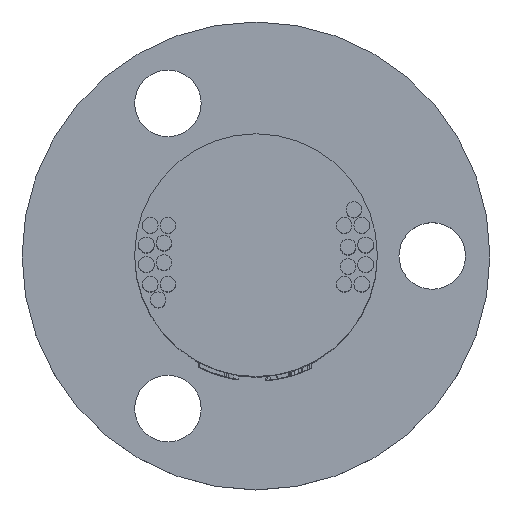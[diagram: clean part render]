
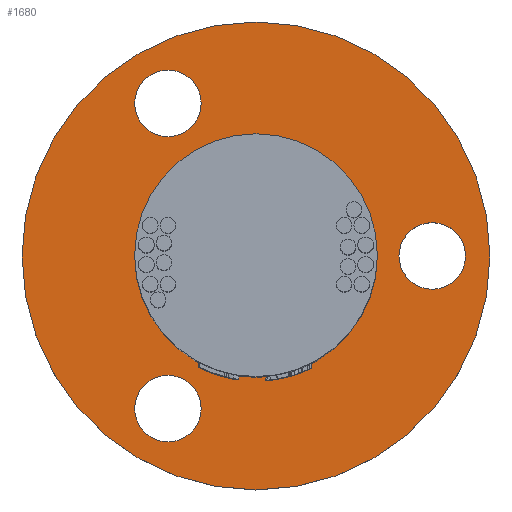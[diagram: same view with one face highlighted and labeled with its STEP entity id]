
A CAD part, top view. The second image highlights one B-rep face of the part: STEP entity #1680.
In plain terms, the highlighted planar face has unit normal (0, 0, 1).
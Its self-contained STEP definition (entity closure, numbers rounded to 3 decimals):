
#187=FACE_BOUND('',#3127,.T.);
#188=FACE_BOUND('',#3128,.T.);
#189=FACE_BOUND('',#3129,.T.);
#190=FACE_BOUND('',#3130,.T.);
#191=FACE_BOUND('',#3131,.T.);
#368=CIRCLE('',#11130,6.2);
#369=CIRCLE('',#11132,1.7);
#370=CIRCLE('',#11133,1.7);
#371=CIRCLE('',#11134,1.7);
#372=CIRCLE('',#11135,11.95);
#1680=ADVANCED_FACE('',(#187,#188,#189,#190,#191),#2043,.T.);
#2043=PLANE('',#11136);
#3127=EDGE_LOOP('',(#5577));
#3128=EDGE_LOOP('',(#5578));
#3129=EDGE_LOOP('',(#5579));
#3130=EDGE_LOOP('',(#5580));
#3131=EDGE_LOOP('',(#5581));
#5577=ORIENTED_EDGE('',*,*,#8927,.F.);
#5578=ORIENTED_EDGE('',*,*,#8928,.F.);
#5579=ORIENTED_EDGE('',*,*,#8929,.F.);
#5580=ORIENTED_EDGE('',*,*,#8930,.F.);
#5581=ORIENTED_EDGE('',*,*,#8931,.F.);
#7445=VERTEX_POINT('',#21791);
#7446=VERTEX_POINT('',#21794);
#7447=VERTEX_POINT('',#21796);
#7448=VERTEX_POINT('',#21798);
#7449=VERTEX_POINT('',#21800);
#8927=EDGE_CURVE('',#7445,#7445,#368,.T.);
#8928=EDGE_CURVE('',#7446,#7446,#369,.T.);
#8929=EDGE_CURVE('',#7447,#7447,#370,.T.);
#8930=EDGE_CURVE('',#7448,#7448,#371,.T.);
#8931=EDGE_CURVE('',#7449,#7449,#372,.T.);
#11130=AXIS2_PLACEMENT_3D('',#21790,#12301,#12302);
#11132=AXIS2_PLACEMENT_3D('',#21793,#12305,#12306);
#11133=AXIS2_PLACEMENT_3D('',#21795,#12307,#12308);
#11134=AXIS2_PLACEMENT_3D('',#21797,#12309,#12310);
#11135=AXIS2_PLACEMENT_3D('',#21799,#12311,#12312);
#11136=AXIS2_PLACEMENT_3D('',#21801,#12313,#12314);
#12301=DIRECTION('',(0.,0.,1.));
#12302=DIRECTION('',(1.,0.,0.));
#12305=DIRECTION('',(0.,0.,1.));
#12306=DIRECTION('',(1.,0.,0.));
#12307=DIRECTION('',(0.,0.,1.));
#12308=DIRECTION('',(1.,0.,0.));
#12309=DIRECTION('',(0.,0.,1.));
#12310=DIRECTION('',(1.,0.,0.));
#12311=DIRECTION('',(0.,0.,-1.));
#12312=DIRECTION('',(1.,0.,0.));
#12313=DIRECTION('',(0.,0.,1.));
#12314=DIRECTION('',(1.,0.,0.));
#21790=CARTESIAN_POINT('',(0.,0.,5.5));
#21791=CARTESIAN_POINT('',(6.2,0.,5.5));
#21793=CARTESIAN_POINT('',(9.,0.,5.5));
#21794=CARTESIAN_POINT('',(10.7,0.,5.5));
#21795=CARTESIAN_POINT('',(-4.5,7.794,5.5));
#21796=CARTESIAN_POINT('',(-2.8,7.794,5.5));
#21797=CARTESIAN_POINT('',(-4.5,-7.794,5.5));
#21798=CARTESIAN_POINT('',(-2.8,-7.794,5.5));
#21799=CARTESIAN_POINT('',(0.,0.,5.5));
#21800=CARTESIAN_POINT('',(11.95,0.,5.5));
#21801=CARTESIAN_POINT('',(0.,0.,5.5));
